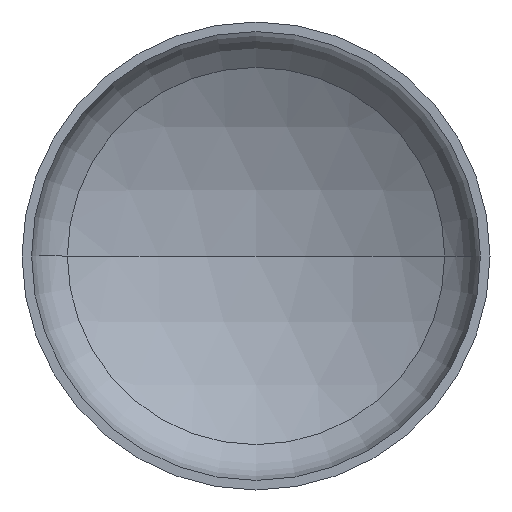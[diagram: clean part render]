
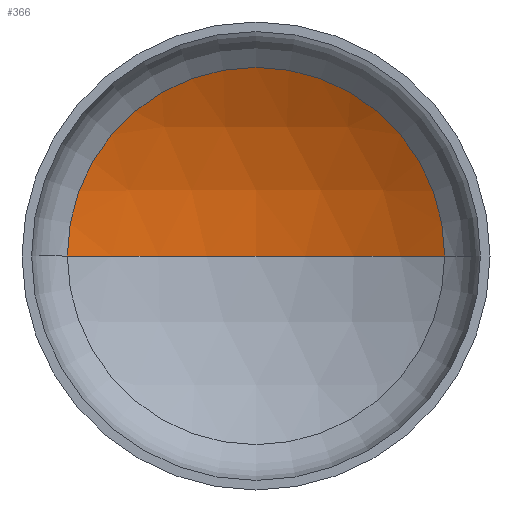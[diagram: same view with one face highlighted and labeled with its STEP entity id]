
A CAD part, front view. The second image highlights one B-rep face of the part: STEP entity #366.
In plain terms, the highlighted spherical face has radius 1920 mm.
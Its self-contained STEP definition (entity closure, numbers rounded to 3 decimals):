
#2 = AXIS2_PLACEMENT_3D ( 'NONE', #216, #351, #410 ) ;
#17 = VERTEX_POINT ( 'NONE', #343 ) ;
#22 = AXIS2_PLACEMENT_3D ( 'NONE', #282, #134, #210 ) ;
#25 = AXIS2_PLACEMENT_3D ( 'NONE', #402, #220, #253 ) ;
#33 = AXIS2_PLACEMENT_3D ( 'NONE', #261, #52, #283 ) ;
#52 = DIRECTION ( 'NONE',  ( 0., -1., 0. ) ) ;
#80 = ORIENTED_EDGE ( 'NONE', *, *, #326, .T. ) ;
#95 = VERTEX_POINT ( 'NONE', #275 ) ;
#125 = ORIENTED_EDGE ( 'NONE', *, *, #331, .T. ) ;
#132 = EDGE_LOOP ( 'NONE', ( #166, #125, #80 ) ) ;
#134 = DIRECTION ( 'NONE',  ( 0., 0., 1. ) ) ;
#146 = VERTEX_POINT ( 'NONE', #184 ) ;
#166 = ORIENTED_EDGE ( 'NONE', *, *, #338, .F. ) ;
#184 = CARTESIAN_POINT ( 'NONE',  ( 967.432, 469.598, 0. ) ) ;
#210 = DIRECTION ( 'NONE',  ( 1., 0., 0. ) ) ;
#216 = CARTESIAN_POINT ( 'NONE',  ( 0., -1188.857, 0. ) ) ;
#220 = DIRECTION ( 'NONE',  ( 0., 0., -1. ) ) ;
#227 = CIRCLE ( 'NONE', #33, 967.432 ) ;
#253 = DIRECTION ( 'NONE',  ( -1., 0., 0. ) ) ;
#261 = CARTESIAN_POINT ( 'NONE',  ( 0., 469.598, 0. ) ) ;
#274 = SPHERICAL_SURFACE ( 'NONE', #2, 1920. ) ;
#275 = CARTESIAN_POINT ( 'NONE',  ( -967.432, 469.598, 0. ) ) ;
#281 = CIRCLE ( 'NONE', #22, 1920. ) ;
#282 = CARTESIAN_POINT ( 'NONE',  ( 0., -1188.857, 0. ) ) ;
#283 = DIRECTION ( 'NONE',  ( 1., 0., 0. ) ) ;
#326 = EDGE_CURVE ( 'NONE', #146, #95, #227, .T. ) ;
#331 = EDGE_CURVE ( 'NONE', #17, #146, #409, .T. ) ;
#338 = EDGE_CURVE ( 'NONE', #17, #95, #281, .T. ) ;
#343 = CARTESIAN_POINT ( 'NONE',  ( 0., 731.143, 0. ) ) ;
#351 = DIRECTION ( 'NONE',  ( 0., 0., -1. ) ) ;
#366 = ADVANCED_FACE ( 'NONE', ( #399 ), #274, .F. ) ;
#399 = FACE_OUTER_BOUND ( 'NONE', #132, .T. ) ;
#402 = CARTESIAN_POINT ( 'NONE',  ( 0., -1188.857, 0. ) ) ;
#409 = CIRCLE ( 'NONE', #25, 1920. ) ;
#410 = DIRECTION ( 'NONE',  ( -1., 0., 0. ) ) ;
